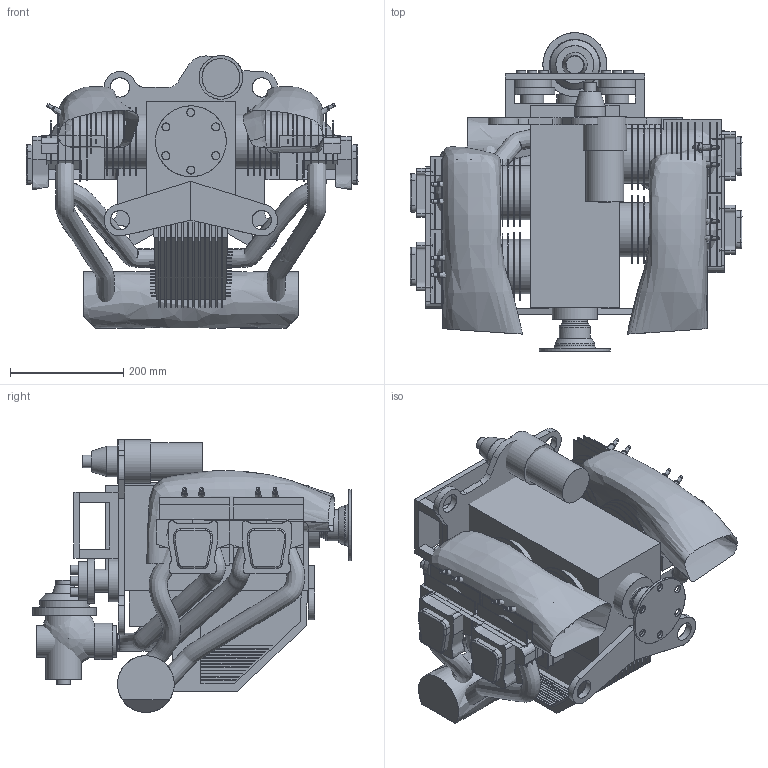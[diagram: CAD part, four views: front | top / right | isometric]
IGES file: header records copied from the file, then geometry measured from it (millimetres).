
Global section: file name: H:\akintyot\harraste Projekteja\aktiivitKehitys\Jabiru\jabiru2200.igs; native system: Rhinoceros ( Mar  9 2011 ); preprocessor: Trout Lake IGES 012 Mar  9 2011; date: 110328.164033; units: millimetre
Bounding box: 585.56 x 562.25 x 481.1 mm (x, y, z)
Surface area: 5110106.3 mm2 (no closed solid volume)
Topology: 0 solids, 0 shells, 1080 faces, 10929 edges, 10772 vertices
Faces by surface type: bspline 1080
